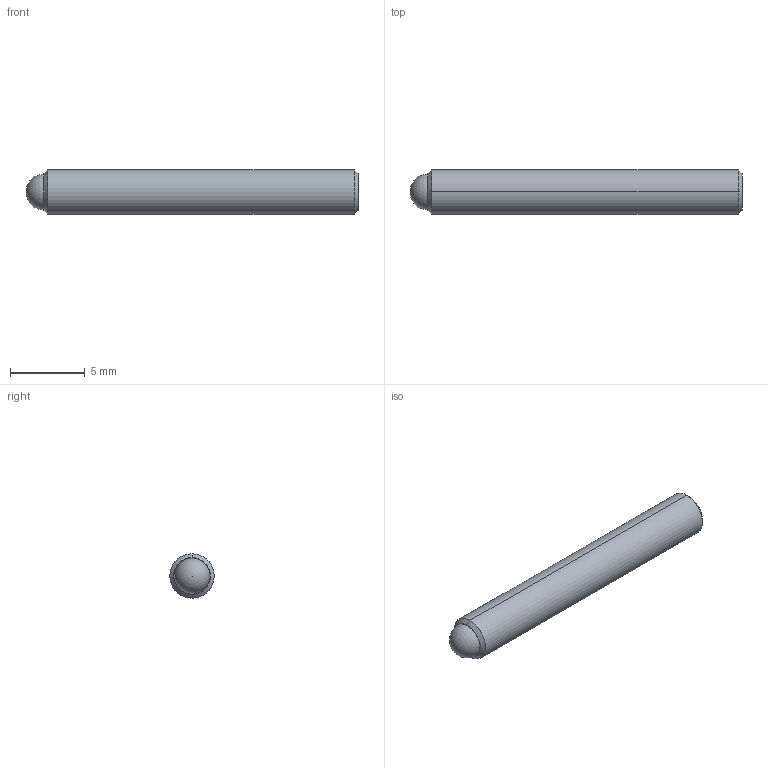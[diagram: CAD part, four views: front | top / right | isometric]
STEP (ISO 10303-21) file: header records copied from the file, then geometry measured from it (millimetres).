
FILE_DESCRIPTION (( 'STEP AP214' ), '1' );
FILE_NAME ('TS6-80-875.STEP', '2014-07-28T19:31:56', ( 'workpc' ), ( 'Microsoft' ), 'SwSTEP 2.0', 'SolidWorks 2013', '' );
FILE_SCHEMA (( 'AUTOMOTIVE_DESIGN' ));
Length unit declared in the file: inch
Products named in the file (1): TS6-80-875
Bounding box: 22.23 x 2.97 x 2.97 mm (x, y, z)
Volume: 139.3 mm3; surface area: 249.7 mm2
Topology: 2 solids, 2 shells, 20 faces, 45 edges, 29 vertices
Faces by surface type: plane 10, cylinder 4, cone 4, sphere 2
Entity records: 573 total; most frequent: DIRECTION 96, CARTESIAN_POINT 87, ORIENTED_EDGE 80, EDGE_CURVE 40, AXIS2_PLACEMENT_3D 35, VERTEX_POINT 26, LINE 26, VECTOR 26
